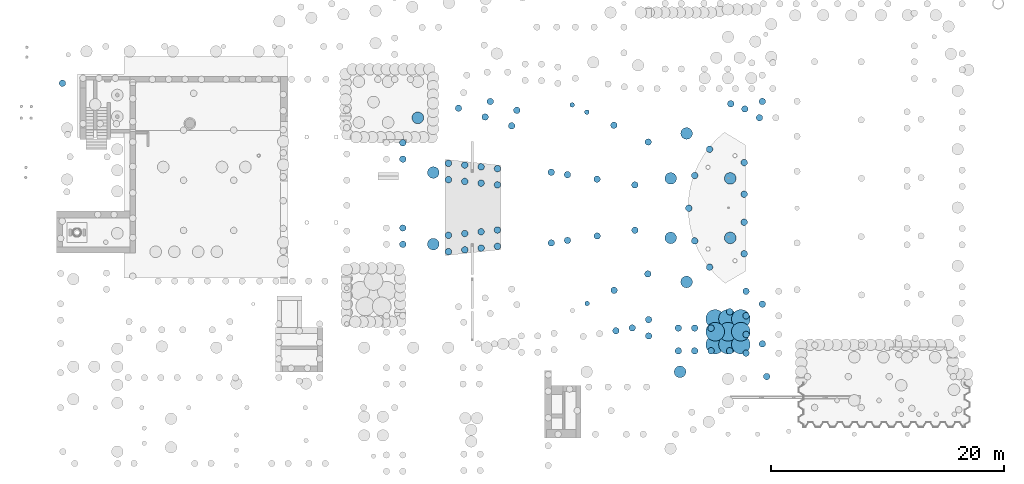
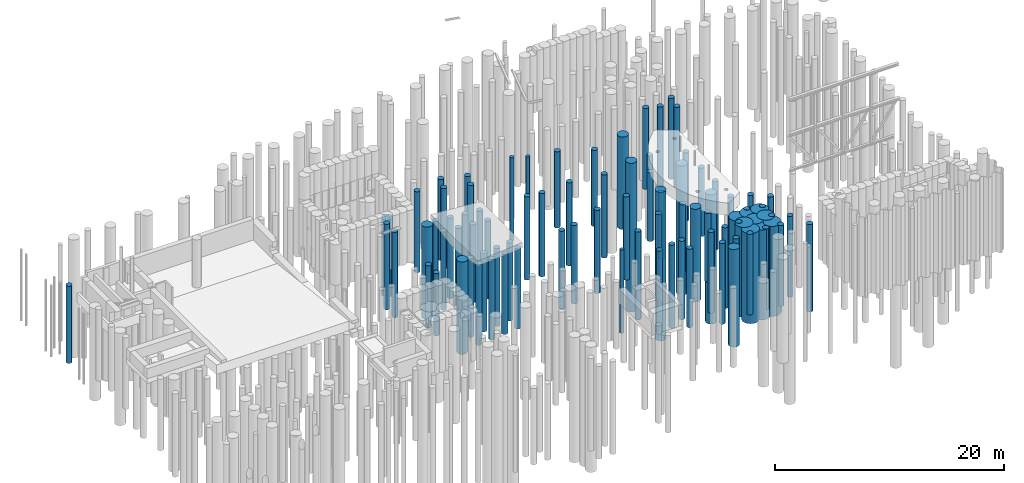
# One storey, part 3 of 104: 92 piles.
"""IFC2X3 building model written with IfcOpenShell, lengths in millimetres."""

from ifc_helpers import new_model, entity, si_unit, converted_unit, derived_unit, direction, frame, frame_2d, origin, place, context, subcontext, project, spatial, circle, extrude, source, transform, mapped, material, element, save


model = new_model("IFC2X3")

# Units and contexts
model_context = context("Model", 3, precision=0.01, world=origin(), true_north=direction((6.12303176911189e-17, 1.0)))
body_context = subcontext(model_context, "Body", "Model", "MODEL_VIEW")
ifc_project = project(units=[si_unit("LENGTHUNIT", "METRE", prefix="MILLI"), si_unit("AREAUNIT", "SQUARE_METRE", prefix="MILLI"), si_unit("VOLUMEUNIT", "CUBIC_METRE"), converted_unit("PLANEANGLEUNIT", "DEGREE", entity("IfcRatioMeasure", 0.0174532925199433), si_unit("PLANEANGLEUNIT", "RADIAN"), dimensions=[0, 0, 0, 0, 0, 0, 0]), si_unit("MASSUNIT", "GRAM", prefix="KILO"), derived_unit("MASSDENSITYUNIT", [(si_unit("MASSUNIT", "GRAM", prefix="KILO"), 1), (si_unit("LENGTHUNIT", "METRE"), -3)]), derived_unit("MOMENTOFINERTIAUNIT", [(si_unit("LENGTHUNIT", "METRE"), 4)]), si_unit("TIMEUNIT", "SECOND"), si_unit("FREQUENCYUNIT", "HERTZ"), si_unit("THERMODYNAMICTEMPERATUREUNIT", "DEGREE_CELSIUS"), derived_unit("THERMALTRANSMITTANCEUNIT", [(si_unit("MASSUNIT", "GRAM", prefix="KILO"), 1), (si_unit("THERMODYNAMICTEMPERATUREUNIT", "KELVIN"), -1), (si_unit("TIMEUNIT", "SECOND"), -3)]), derived_unit("VOLUMETRICFLOWRATEUNIT", [(si_unit("LENGTHUNIT", "METRE"), 3), (si_unit("TIMEUNIT", "SECOND"), -1)]), si_unit("ELECTRICCURRENTUNIT", "AMPERE"), si_unit("ELECTRICVOLTAGEUNIT", "VOLT"), si_unit("POWERUNIT", "WATT"), si_unit("FORCEUNIT", "NEWTON", prefix="KILO"), si_unit("ILLUMINANCEUNIT", "LUX"), si_unit("LUMINOUSFLUXUNIT", "LUMEN"), si_unit("LUMINOUSINTENSITYUNIT", "CANDELA"), derived_unit("USERDEFINED", [(si_unit("MASSUNIT", "GRAM", prefix="KILO"), -1), (si_unit("LENGTHUNIT", "METRE"), -2), (si_unit("TIMEUNIT", "SECOND"), 3), (si_unit("LUMINOUSFLUXUNIT", "LUMEN"), 1)]), derived_unit("LINEARVELOCITYUNIT", [(si_unit("LENGTHUNIT", "METRE"), 1), (si_unit("TIMEUNIT", "SECOND"), -1)]), si_unit("PRESSUREUNIT", "PASCAL"), derived_unit("USERDEFINED", [(si_unit("LENGTHUNIT", "METRE"), -2), (si_unit("MASSUNIT", "GRAM", prefix="KILO"), 1), (si_unit("TIMEUNIT", "SECOND"), -2)]), derived_unit("LINEARFORCEUNIT", [(si_unit("MASSUNIT", "GRAM", prefix="KILO"), 1), (si_unit("LENGTHUNIT", "METRE"), 1), (si_unit("TIMEUNIT", "SECOND"), -2), (si_unit("LENGTHUNIT", "METRE"), -1)]), derived_unit("PLANARFORCEUNIT", [(si_unit("MASSUNIT", "GRAM", prefix="KILO"), 1), (si_unit("LENGTHUNIT", "METRE"), 1), (si_unit("TIMEUNIT", "SECOND"), -2), (si_unit("LENGTHUNIT", "METRE"), -2)])], contexts=[model_context])

# Site, building, storey
site_placement = place(None, origin())
site = spatial("IfcSite", under=ifc_project, at=site_placement, Name="Theater aan de Parade", CompositionType="ELEMENT")
building_placement = place(site_placement, origin())
building = spatial("IfcBuilding", under=site, at=building_placement, Name="Theater aan de Parade", CompositionType="ELEMENT")
storey_placement = place(building_placement, frame((0.0, 0.0, -5520.0)))
storey = spatial("IfcBuildingStorey", under=building, at=storey_placement, Name="-2 kelder", CompositionType="ELEMENT", Elevation=-5520.0)

# Piles
ifc_material_1 = material(Name="<Unnamed>")
shared_shape_1 = source(origin(), body_context, "Body", "SweptSolid", [
    extrude(circle(Radius=280.0, at=frame_2d((1.69197988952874e-14, -4.61316659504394e-13), x_axis=(1.0, 0.0))), frame((0.0, 0.0, -11960.0)), (0.0, 0.0, 1.0), 8239.99999999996),
])
pile_1_placement = place(storey_placement, frame((10497.3333333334, 43115.0, 5520.0)))
element("IfcPile", 1, at=pile_1_placement, inside=storey, material=ifc_material_1, Name="17_PBT_SFO_paal_rond:Ø560 (betonpaal)_bestaand", ObjectType="17_PBT_SFO_paal_rond:Ø560 (betonpaal)_bestaand", PredefinedType="NOTDEFINED", context=body_context, shape_type="MappedRepresentation", body=[
    mapped(shared_shape_1, transform((0.0, 0.0, 0.0), scale=1.0)),
])
shared_shape_2 = source(origin(), body_context, "Body", "SweptSolid", [
    extrude(circle(Radius=280.0, at=frame_2d((1.69197988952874e-14, -4.61316659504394e-13), x_axis=(1.0, 0.0))), frame((0.0, 0.0, -12610.0)), (0.0, 0.0, 1.0), 8889.99999999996),
])
pile_2_placement = place(storey_placement, frame((59545.0, 34403.0, 5520.0), z_axis=(0.0, 0.0, 1.0), x_axis=(0.988744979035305, -0.149610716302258, 0.0)))
element("IfcPile", 2, at=pile_2_placement, inside=storey, material=ifc_material_1, Name="17_PBT_SFO_paal_rond:Ø560 (betonpaal)_bestaand", ObjectType="17_PBT_SFO_paal_rond:Ø560 (betonpaal)_bestaand", PredefinedType="NOTDEFINED", context=body_context, shape_type="MappedRepresentation", body=[
    mapped(shared_shape_2, transform((0.0, 0.0, 0.0), scale=1.0)),
])
for number, where in (
    (3, (56310.0, 34892.4999999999, 5520.0)),
    (4, (59555.0, 30517.0, 5520.0)),
    (5, (56320.0, 30027.4999999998, 5520.0)),
    (6, (57925.0, 21907.0, 5520.0)),
    (7, (59325.0, 22152.0, 5520.0)),
):
    element("IfcPile", number, at=place(storey_placement, frame(where)), inside=storey, material=ifc_material_1, Name="17_PBT_SFO_paal_rond:Ø560 (betonpaal)_bestaand", ObjectType="17_PBT_SFO_paal_rond:Ø560 (betonpaal)_bestaand", PredefinedType="NOTDEFINED", context=body_context, shape_type="MappedRepresentation", body=[
        mapped(shared_shape_2, transform((0.0, 0.0, 0.0), scale=1.0)),
    ])
shared_shape_3 = source(origin(), body_context, "Body", "SweptSolid", [
    extrude(circle(Radius=280.0, at=frame_2d((1.69197988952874e-14, -4.61316659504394e-13), x_axis=(1.0, 0.0))), frame((0.0, 0.0, -11860.0)), (0.0, 0.0, 1.0), 8139.99999999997),
])
for number, where in (
    (8, (60690.0, 38080.0, 5520.0)),
    (9, (57750.0, 39514.0, 5520.0)),
):
    element("IfcPile", number, at=place(storey_placement, frame(where)), inside=storey, material=ifc_material_1, Name="17_PBT_SFO_paal_rond:Ø560 (betonpaal)_bestaand", ObjectType="17_PBT_SFO_paal_rond:Ø560 (betonpaal)_bestaand", PredefinedType="NOTDEFINED", context=body_context, shape_type="MappedRepresentation", body=[
        mapped(shared_shape_3, transform((0.0, 0.0, 0.0), scale=1.0)),
    ])
shared_shape_4 = source(origin(), body_context, "Body", "SweptSolid", [
    extrude(circle(Radius=280.0, at=frame_2d((1.69197988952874e-14, -4.61316659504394e-13), x_axis=(1.0, 0.0))), frame((0.0, 0.0, -12360.0)), (0.0, 0.0, 1.0), 8639.99999999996),
])
for number, where in (
    (10, (67770.0, 41360.0, 5520.0)),
    (11, (68970.0, 40910.0, 5520.0)),
    (12, (70470.0, 41560.0, 5520.0)),
    (13, (70220.0, 40160.0, 5520.0)),
    (14, (69075.0, 25285.0, 5520.0)),
    (15, (70475.0, 24185.0, 5520.0)),
    (16, (69075.0, 23185.0, 5520.0)),
    (17, (69075.0, 21585.0, 5520.0)),
    (18, (70475.0, 20785.0, 5520.0)),
    (19, (69075.0, 19985.0, 5520.0)),
    (20, (67675.0, 23535.0, 5520.0)),
    (21, (67675.0, 20185.0, 5520.0)),
    (22, (66075.0, 20185.0, 5520.0)),
    (23, (64675.0, 20185.0, 5520.0)),
    (24, (63275.0, 20185.0, 5520.0)),
    (25, (66075.0, 22135.0, 5520.0)),
    (26, (64675.0, 22135.0, 5520.0)),
    (27, (63275.0, 22135.0, 5520.0)),
):
    element("IfcPile", number, at=place(storey_placement, frame(where)), inside=storey, material=ifc_material_1, Name="17_PBT_SFO_paal_rond:Ø560 (betonpaal)_bestaand", ObjectType="17_PBT_SFO_paal_rond:Ø560 (betonpaal)_bestaand", PredefinedType="NOTDEFINED", context=body_context, shape_type="MappedRepresentation", body=[
        mapped(shared_shape_4, transform((0.0, 0.0, 0.0), scale=1.0)),
    ])
shared_shape_5 = source(origin(), body_context, "Body", "SweptSolid", [
    extrude(circle(Radius=280.0, at=frame_2d((1.69197988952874e-14, -4.61316659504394e-13), x_axis=(1.0, 0.0))), frame((0.0, 0.0, -13360.0)), (0.0, 0.0, 1.0), 9139.99999999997),
])
for number, where in (
    (28, (39665.0, 38010.0, 5520.0)),
    (29, (39665.0, 36610.0, 5520.0)),
):
    element("IfcPile", number, at=place(storey_placement, frame(where)), inside=storey, material=ifc_material_1, Name="17_PBT_SFO_paal_rond:Ø560 (betonpaal)_bestaand", ObjectType="17_PBT_SFO_paal_rond:Ø560 (betonpaal)_bestaand", PredefinedType="NOTDEFINED", context=body_context, shape_type="MappedRepresentation", body=[
        mapped(shared_shape_5, transform((0.0, 0.0, 0.0), scale=1.0)),
    ])
shared_shape_6 = source(origin(), body_context, "Body", "SweptSolid", [
    extrude(circle(Radius=280.0, at=frame_2d((1.69197988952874e-14, -4.61316659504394e-13), x_axis=(1.0, 0.0))), frame((0.0, 0.0, -10860.0)), (0.0, 0.0, 1.0), 6639.99999999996),
])
for number, where in (
    (30, (39665.0, 30710.0, 5520.0)),
    (31, (39665.0, 29310.0, 5520.0)),
):
    element("IfcPile", number, at=place(storey_placement, frame(where)), inside=storey, material=ifc_material_1, Name="17_PBT_SFO_paal_rond:Ø560 (betonpaal)_bestaand", ObjectType="17_PBT_SFO_paal_rond:Ø560 (betonpaal)_bestaand", PredefinedType="NOTDEFINED", context=body_context, shape_type="MappedRepresentation", body=[
        mapped(shared_shape_6, transform((0.0, 0.0, 0.0), scale=1.0)),
    ])
shared_shape_7 = source(origin(), body_context, "Body", "SweptSolid", [
    extrude(circle(Radius=280.0, at=frame_2d((1.69197988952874e-14, -4.61316659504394e-13), x_axis=(1.0, 0.0))), frame((0.0, 0.0, -12860.0)), (0.0, 0.0, 1.0), 8639.99999999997),
])
for number, where in (
    (32, (44438.0, 40979.0, 5520.0)),
    (33, (47158.0, 41551.0, 5520.0)),
    (34, (46716.0, 40223.0, 5520.0)),
    (35, (49435.0, 40794.0, 5520.0)),
    (36, (48993.0, 39466.0, 5520.0)),
):
    element("IfcPile", number, at=place(storey_placement, frame(where)), inside=storey, material=ifc_material_1, Name="17_PBT_SFO_paal_rond:Ø560 (betonpaal)_bestaand", ObjectType="17_PBT_SFO_paal_rond:Ø560 (betonpaal)_bestaand", PredefinedType="NOTDEFINED", context=body_context, shape_type="MappedRepresentation", body=[
        mapped(shared_shape_7, transform((0.0, 0.0, 0.0), scale=1.0)),
    ])
shared_shape_8 = source(origin(), body_context, "Body", "SweptSolid", [
    extrude(circle(Radius=280.0, at=frame_2d((1.69197988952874e-14, -4.61316659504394e-13), x_axis=(1.0, 0.0))), frame((0.0, 0.0, -13110.0)), (0.0, 0.0, 1.0), 8889.99999999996),
])
for number, where in (
    (37, (53767.0, 35277.290880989, 5520.0)),
    (38, (52383.0, 35486.7091190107, 5520.0)),
):
    element("IfcPile", number, at=place(storey_placement, frame(where)), inside=storey, material=ifc_material_1, Name="17_PBT_SFO_paal_rond:Ø560 (betonpaal)_bestaand", ObjectType="17_PBT_SFO_paal_rond:Ø560 (betonpaal)_bestaand", PredefinedType="NOTDEFINED", context=body_context, shape_type="MappedRepresentation", body=[
        mapped(shared_shape_8, transform((0.0, 0.0, 0.0), scale=1.0)),
    ])
shared_shape_9 = source(origin(), body_context, "Body", "SweptSolid", [
    extrude(circle(Radius=280.0, at=frame_2d((1.69197988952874e-14, -4.61316659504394e-13), x_axis=(1.0, 0.0))), frame((0.0, 0.0, -13110.0)), (0.0, 0.0, 1.0), 9389.99999999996),
])
for number, where in (
    (39, (60665.0, 26775.0, 5520.0)),
    (40, (57770.0, 25371.0, 5520.0)),
):
    element("IfcPile", number, at=place(storey_placement, frame(where)), inside=storey, material=ifc_material_1, Name="17_PBT_SFO_paal_rond:Ø560 (betonpaal)_bestaand", ObjectType="17_PBT_SFO_paal_rond:Ø560 (betonpaal)_bestaand", PredefinedType="NOTDEFINED", context=body_context, shape_type="MappedRepresentation", body=[
        mapped(shared_shape_9, transform((0.0, 0.0, 0.0), scale=1.0)),
    ])
shared_shape_10 = source(origin(), body_context, "Body", "SweptSolid", [
    extrude(circle(Radius=280.0, at=frame_2d((-1.69197988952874e-14, -5.23489148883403e-13), x_axis=(1.0, 0.0))), frame((0.0, 0.0, -12860.0)), (0.0, 0.0, 1.0), 8539.99999999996),
])
for number, where in (
    (41, (47775.0, 35802.0, 5520.0)),
    (42, (47775.0, 29138.0, 5520.0)),
):
    element("IfcPile", number, at=place(storey_placement, frame(where)), inside=storey, material=ifc_material_1, Name="17_PBT_SFO_paal_rond:Ø560 (betonpaal)_bestaand", ObjectType="17_PBT_SFO_paal_rond:Ø560 (betonpaal)_bestaand", PredefinedType="NOTDEFINED", context=body_context, shape_type="MappedRepresentation", body=[
        mapped(shared_shape_10, transform((0.0, 0.0, 0.0), scale=1.0)),
    ])
shared_shape_11 = source(origin(), body_context, "Body", "SweptSolid", [
    extrude(circle(Radius=280.0, at=frame_2d((1.69197988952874e-14, -4.61316659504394e-13), x_axis=(1.0, 0.0))), frame((0.0, 0.0, -12860.0)), (0.0, 0.0, 1.0), 8559.99999999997),
])
for number, where in (
    (43, (46375.0, 35952.0, 5520.0)),
    (44, (46375.0, 28988.0, 5520.0)),
):
    element("IfcPile", number, at=place(storey_placement, frame(where)), inside=storey, material=ifc_material_1, Name="17_PBT_SFO_paal_rond:Ø560 (betonpaal)_bestaand", ObjectType="17_PBT_SFO_paal_rond:Ø560 (betonpaal)_bestaand", PredefinedType="NOTDEFINED", context=body_context, shape_type="MappedRepresentation", body=[
        mapped(shared_shape_11, transform((0.0, 0.0, 0.0), scale=1.0)),
    ])
shared_shape_12 = source(origin(), body_context, "Body", "SweptSolid", [
    extrude(circle(Radius=280.0, at=frame_2d((1.69197988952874e-14, -4.61316659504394e-13), x_axis=(1.0, 0.0))), frame((0.0, 0.0, -12860.0)), (0.0, 0.0, 1.0), 8579.99999999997),
])
for number, where in (
    (45, (44975.0, 36102.0, 5520.0)),
    (46, (44975.0, 28838.0, 5520.0)),
):
    element("IfcPile", number, at=place(storey_placement, frame(where)), inside=storey, material=ifc_material_1, Name="17_PBT_SFO_paal_rond:Ø560 (betonpaal)_bestaand", ObjectType="17_PBT_SFO_paal_rond:Ø560 (betonpaal)_bestaand", PredefinedType="NOTDEFINED", context=body_context, shape_type="MappedRepresentation", body=[
        mapped(shared_shape_12, transform((0.0, 0.0, 0.0), scale=1.0)),
    ])
shared_shape_13 = source(origin(), body_context, "Body", "SweptSolid", [
    extrude(circle(Radius=280.0, at=frame_2d((-1.69197988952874e-14, -5.23489148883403e-13), x_axis=(1.0, 0.0))), frame((0.0, 0.0, -12860.0)), (0.0, 0.0, 1.0), 8619.99999999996),
])
for number, where in (
    (47, (43575.0, 36252.0, 5520.0)),
    (48, (43575.0, 28688.0, 5520.0)),
):
    element("IfcPile", number, at=place(storey_placement, frame(where)), inside=storey, material=ifc_material_1, Name="17_PBT_SFO_paal_rond:Ø560 (betonpaal)_bestaand", ObjectType="17_PBT_SFO_paal_rond:Ø560 (betonpaal)_bestaand", PredefinedType="NOTDEFINED", context=body_context, shape_type="MappedRepresentation", body=[
        mapped(shared_shape_13, transform((0.0, 0.0, 0.0), scale=1.0)),
    ])
shared_shape_14 = source(origin(), body_context, "Body", "SweptSolid", [
    extrude(circle(Radius=280.0, at=frame_2d((1.69197988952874e-14, -4.61316659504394e-13), x_axis=(1.0, 0.0))), frame((0.0, 0.0, -12860.0)), (0.0, 0.0, 1.0), 8319.99999999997),
])
for number, where in (
    (49, (47775.0, 34402.0, 5520.0)),
    (50, (46375.0, 34552.0, 5520.0)),
    (51, (47775.0, 30538.0, 5520.0)),
    (52, (46375.0, 30388.0, 5520.0)),
):
    element("IfcPile", number, at=place(storey_placement, frame(where)), inside=storey, material=ifc_material_1, Name="17_PBT_SFO_paal_rond:Ø560 (betonpaal)_bestaand", ObjectType="17_PBT_SFO_paal_rond:Ø560 (betonpaal)_bestaand", PredefinedType="NOTDEFINED", context=body_context, shape_type="MappedRepresentation", body=[
        mapped(shared_shape_14, transform((0.0, 0.0, 0.0), scale=1.0)),
    ])
shared_shape_15 = source(origin(), body_context, "Body", "SweptSolid", [
    extrude(circle(Radius=280.0, at=frame_2d((-1.69197988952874e-14, -5.23489148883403e-13), x_axis=(1.0, 0.0))), frame((0.0, 0.0, -12860.0)), (0.0, 0.0, 1.0), 8339.99999999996),
])
for number, where in (
    (53, (44975.0, 34702.0, 5520.0)),
    (54, (44975.0, 30238.0, 5520.0)),
):
    element("IfcPile", number, at=place(storey_placement, frame(where)), inside=storey, material=ifc_material_1, Name="17_PBT_SFO_paal_rond:Ø560 (betonpaal)_bestaand", ObjectType="17_PBT_SFO_paal_rond:Ø560 (betonpaal)_bestaand", PredefinedType="NOTDEFINED", context=body_context, shape_type="MappedRepresentation", body=[
        mapped(shared_shape_15, transform((0.0, 0.0, 0.0), scale=1.0)),
    ])
shared_shape_16 = source(origin(), body_context, "Body", "SweptSolid", [
    extrude(circle(Radius=280.0, at=frame_2d((1.69197988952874e-14, -4.61316659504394e-13), x_axis=(1.0, 0.0))), frame((0.0, 0.0, -12860.0)), (0.0, 0.0, 1.0), 8359.99999999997),
])
for number, where in (
    (55, (43575.0, 34852.0, 5520.0)),
    (56, (43575.0, 30088.0, 5520.0)),
):
    element("IfcPile", number, at=place(storey_placement, frame(where)), inside=storey, material=ifc_material_1, Name="17_PBT_SFO_paal_rond:Ø560 (betonpaal)_bestaand", ObjectType="17_PBT_SFO_paal_rond:Ø560 (betonpaal)_bestaand", PredefinedType="NOTDEFINED", context=body_context, shape_type="MappedRepresentation", body=[
        mapped(shared_shape_16, transform((0.0, 0.0, 0.0), scale=1.0)),
    ])
shared_shape_17 = source(origin(), body_context, "Body", "SweptSolid", [
    extrude(circle(Radius=200.0, at=frame_2d((1.69197988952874e-14, -3.02923644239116e-13), x_axis=(1.0, 0.0))), frame((0.0, 0.0, -13110.0)), (0.0, 0.0, 1.0), 8889.99999999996),
])
for number, where in (
    (57, (55439.0, 40641.2020408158, 5520.0)),
    (58, (54180.5857740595, 41255.0, 5520.0)),
    (59, (55459.0, 24243.7979591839, 5520.0)),
):
    element("IfcPile", number, at=place(storey_placement, frame(where)), inside=storey, material=ifc_material_1, Name="17_PBT_SFO_paal_rond:Ø400 (betonpaal)_bestaand", ObjectType="17_PBT_SFO_paal_rond:Ø400 (betonpaal)_bestaand", PredefinedType="NOTDEFINED", context=body_context, shape_type="MappedRepresentation", body=[
        mapped(shared_shape_17, transform((0.0, 0.0, 0.0), scale=1.0)),
    ])
shared_shape_18 = source(origin(), body_context, "Body", "SweptSolid", [
    extrude(circle(Radius=280.0, at=frame_2d((1.69197988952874e-14, -4.61316659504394e-13), x_axis=(1.0, 0.0))), frame((0.0, 0.0, -12610.0)), (0.0, 0.0, 1.0), 8389.99999999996),
])
for number, where in (
    (60, (53777.0, 29642.7091190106, 5520.0)),
    (61, (52393.0, 29433.290880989, 5520.0)),
    (62, (60725.0, 21460.0, 5520.0)),
    (63, (60725.0, 22860.0, 5520.0)),
):
    element("IfcPile", number, at=place(storey_placement, frame(where)), inside=storey, material=ifc_material_1, Name="17_PBT_SFO_paal_rond:Ø560 (betonpaal)_bestaand", ObjectType="17_PBT_SFO_paal_rond:Ø560 (betonpaal)_bestaand", PredefinedType="NOTDEFINED", context=body_context, shape_type="MappedRepresentation", body=[
        mapped(shared_shape_18, transform((0.0, 0.0, 0.0), scale=1.0)),
    ])
shared_shape_19 = source(origin(), body_context, "Body", "SweptSolid", [
    extrude(circle(Radius=280.0, at=frame_2d((1.69197988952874e-14, -4.61316659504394e-13), x_axis=(1.0, 0.0))), frame((0.0, 0.0, -13110.0)), (0.0, 0.0, 1.0), 7309.99999999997),
])
for number, where in (
    (64, (64170.0, 32410.0, 5520.0)),
    (65, (64673.0, 35210.0, 5520.0)),
    (66, (65950.0, 37460.0, 5520.0)),
    (67, (64673.0, 29610.0, 5520.0)),
    (68, (65950.0, 27360.0, 5520.0)),
    (69, (68920.0, 33610.0, 5520.0)),
    (70, (68920.0, 31210.0, 5520.0)),
    (71, (68920.0, 28500.0, 5520.0)),
    (72, (68920.0, 36320.0, 5520.0)),
):
    element("IfcPile", number, at=place(storey_placement, frame(where)), inside=storey, material=ifc_material_1, Name="17_PBT_SFO_paal_rond:Ø560 (betonpaal)_bestaand", ObjectType="17_PBT_SFO_paal_rond:Ø560 (betonpaal)_bestaand", PredefinedType="NOTDEFINED", context=body_context, shape_type="MappedRepresentation", body=[
        mapped(shared_shape_19, transform((0.0, 0.0, 0.0), scale=1.0)),
    ])
shared_shape_20 = source(origin(), body_context, "Body", "SweptSolid", [
    extrude(circle(Radius=280.0, at=frame_2d((1.69197988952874e-14, -4.61316659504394e-13), x_axis=(1.0, 0.0))), frame((0.0, 0.0, -12360.0)), (0.0, 0.0, 1.0), 9339.99999999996),
])
pile_3_placement = place(storey_placement, frame((70845.0, 17980.0, 5520.0)))
element("IfcPile", 73, at=pile_3_placement, inside=storey, material=ifc_material_1, Name="17_PBT_SFO_paal_rond:Ø560 (betonpaal)_bestaand", ObjectType="17_PBT_SFO_paal_rond:Ø560 (betonpaal)_bestaand", PredefinedType="NOTDEFINED", context=body_context, shape_type="MappedRepresentation", body=[
    mapped(shared_shape_20, transform((0.0, 0.0, 0.0), scale=1.0)),
])
ifc_material_2 = material(Name="00_PBT_MAT_grout")
shared_shape_21 = source(origin(), body_context, "Body", "SweptSolid", [
    extrude(circle(Radius=500.0, at=frame_2d((3.3839597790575e-14, -7.7318529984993e-13), x_axis=(1.0, 0.0))), frame((0.0, 0.0, -13610.0)), (0.0, 0.0, 1.0), 9869.99999999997),
])
for number, where in (
    (74, (63980.30307034, 26087.8060483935, 5520.0)),
    (75, (42278.8683762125, 29329.7858290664, 5520.0)),
    (76, (42278.8683762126, 35465.1873435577, 5520.0)),
    (77, (63980.3030703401, 38812.1939516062, 5520.0)),
):
    element("IfcPile", number, at=place(storey_placement, frame(where)), inside=storey, material=ifc_material_2, Name="17_PBT_SFO_paal_rond:Ø1000 (jetgroutpaal) binnen kelder", ObjectType="17_PBT_SFO_paal_rond:Ø1000 (jetgroutpaal) binnen kelder", PredefinedType="NOTDEFINED", context=body_context, shape_type="MappedRepresentation", body=[
        mapped(shared_shape_21, transform((0.0, 0.0, 0.0), scale=1.0)),
    ])
shared_shape_22 = source(origin(), body_context, "Body", "SweptSolid", [
    extrude(circle(Radius=500.0, at=frame_2d((3.3839597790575e-14, -7.7318529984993e-13), x_axis=(1.0, 0.0))), frame((0.0, 0.0, -13610.0)), (0.0, 0.0, 1.0), 10430.0),
])
pile_4_placement = place(storey_placement, frame((63418.8351022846, 18386.367453, 5520.0)))
element("IfcPile", 78, at=pile_4_placement, inside=storey, material=ifc_material_2, Name="17_PBT_SFO_paal_rond:Ø1000 (jetgroutpaal) binnen kelder", ObjectType="17_PBT_SFO_paal_rond:Ø1000 (jetgroutpaal) binnen kelder", PredefinedType="NOTDEFINED", context=body_context, shape_type="MappedRepresentation", body=[
    mapped(shared_shape_22, transform((0.0, 0.0, 0.0), scale=1.0)),
])
shared_shape_23 = source(origin(), body_context, "Body", "SweptSolid", [
    extrude(circle(Radius=500.0, at=frame_2d((3.3839597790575e-14, -7.7318529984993e-13), x_axis=(1.0, 0.0))), frame((0.0, 0.0, -19610.0)), (0.0, 0.0, 1.0), 15870.0),
])
for number, where in (
    (79, (62620.0, 34960.0, 5520.0)),
    (80, (62620.0, 29860.0, 5520.0)),
):
    element("IfcPile", number, at=place(storey_placement, frame(where)), inside=storey, material=ifc_material_2, Name="17_PBT_SFO_paal_rond:Ø1000 (jetgroutpaal) binnen kelder", ObjectType="17_PBT_SFO_paal_rond:Ø1000 (jetgroutpaal) binnen kelder", PredefinedType="NOTDEFINED", context=body_context, shape_type="MappedRepresentation", body=[
        mapped(shared_shape_23, transform((0.0, 0.0, 0.0), scale=1.0)),
    ])
shared_shape_24 = source(origin(), body_context, "Body", "SweptSolid", [
    extrude(circle(Radius=800.0, at=frame_2d((6.76791955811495e-14, -1.34705296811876e-12), x_axis=(1.0, 0.0))), frame((0.0, 0.0, -13360.0)), (0.0, 0.0, 1.0), 9619.99999999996),
])
for number, where in (
    (81, (67531.256100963, 20722.4914355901, 5520.0)),
    (82, (67531.256100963, 21822.4914355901, 5520.0)),
    (83, (66431.256100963, 20722.4914355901, 5520.0)),
    (84, (66431.256100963, 21822.4914355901, 5520.0)),
    (85, (68631.256100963, 20722.4914355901, 5520.0)),
    (86, (68631.256100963, 21822.4914355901, 5520.0)),
    (87, (67531.256100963, 22922.4914355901, 5520.0)),
    (88, (66431.256100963, 22922.4914355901, 5520.0)),
    (89, (68631.256100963, 22922.4914355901, 5520.0)),
):
    element("IfcPile", number, at=place(storey_placement, frame(where)), inside=storey, material=ifc_material_2, Name="17_PBT_SFO_paal_rond:Ø1600 (jetgroutpaal) jetgroutlichaam merk D", ObjectType="17_PBT_SFO_paal_rond:Ø1600 (jetgroutpaal) jetgroutlichaam merk D", PredefinedType="NOTDEFINED", context=body_context, shape_type="MappedRepresentation", body=[
        mapped(shared_shape_24, transform((0.0, 0.0, 0.0), scale=1.0)),
    ])
shared_shape_25 = source(origin(), body_context, "Body", "SweptSolid", [
    extrude(circle(Radius=500.0, at=frame_2d((3.3839597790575e-14, -7.7318529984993e-13), x_axis=(1.0, 0.0))), frame((0.0, 0.0, -13610.0)), (0.0, 0.0, 1.0), 8229.99999999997),
])
pile_5_placement = place(storey_placement, frame((40953.8581275, 40150.0, 5520.0)))
element("IfcPile", 90, at=pile_5_placement, inside=storey, material=ifc_material_2, Name="17_PBT_SFO_paal_rond:Ø1000 (jetgroutpaal) buiten kelder", ObjectType="17_PBT_SFO_paal_rond:Ø1000 (jetgroutpaal) buiten kelder", PredefinedType="NOTDEFINED", context=body_context, shape_type="MappedRepresentation", body=[
    mapped(shared_shape_25, transform((0.0, 0.0, 0.0), scale=1.0)),
])
shared_shape_26 = source(origin(), body_context, "Body", "SweptSolid", [
    extrude(circle(Radius=500.0, at=frame_2d((3.3839597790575e-14, -7.7318529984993e-13), x_axis=(1.0, 0.0))), frame((0.0, 0.0, -19610.0)), (0.0, 0.0, 1.0), 13790.0),
])
for number, where in (
    (91, (67720.0, 29860.0, 5520.0)),
    (92, (67720.0, 34960.0, 5520.0)),
):
    element("IfcPile", number, at=place(storey_placement, frame(where)), inside=storey, material=ifc_material_2, Name="17_PBT_SFO_paal_rond:Ø1000 (jetgroutpaal) binnen kelder", ObjectType="17_PBT_SFO_paal_rond:Ø1000 (jetgroutpaal) binnen kelder", PredefinedType="NOTDEFINED", context=body_context, shape_type="MappedRepresentation", body=[
        mapped(shared_shape_26, transform((0.0, 0.0, 0.0), scale=1.0)),
    ])

save(model, "model.ifc")
